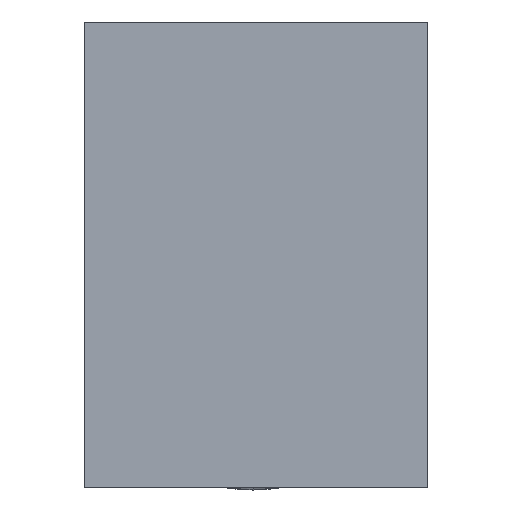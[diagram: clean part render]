
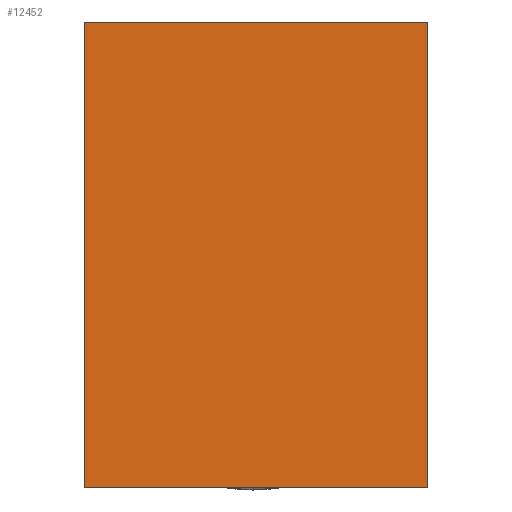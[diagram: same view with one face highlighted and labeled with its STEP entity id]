
A CAD part, left-side view. The second image highlights one B-rep face of the part: STEP entity #12452.
In plain terms, the highlighted planar face has unit normal (-1, 0, 0).
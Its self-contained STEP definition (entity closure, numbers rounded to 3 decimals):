
#120 = CARTESIAN_POINT ( 'NONE',  ( 0., -14.75, 20. ) ) ;
#787 = EDGE_CURVE ( 'NONE', #14364, #26607, #5948, .T. ) ;
#2163 = DIRECTION ( 'NONE',  ( 0., -1., 0. ) ) ;
#2839 = CARTESIAN_POINT ( 'NONE',  ( 0., -14.75, 20. ) ) ;
#4887 = DIRECTION ( 'NONE',  ( 0., 0., 1. ) ) ;
#5851 = LINE ( 'NONE', #120, #19449 ) ;
#5894 = AXIS2_PLACEMENT_3D ( 'NONE', #11335, #29100, #13905 ) ;
#5948 = LINE ( 'NONE', #2839, #33027 ) ;
#7617 = VERTEX_POINT ( 'NONE', #30580 ) ;
#7788 = VECTOR ( 'NONE', #4887, 1000. ) ;
#8545 = ORIENTED_EDGE ( 'NONE', *, *, #10914, .F. ) ;
#8576 = LINE ( 'NONE', #25273, #7788 ) ;
#9965 = CARTESIAN_POINT ( 'NONE',  ( 0., -14.75, 20. ) ) ;
#10914 = EDGE_CURVE ( 'NONE', #26607, #20644, #5851, .T. ) ;
#10984 = CARTESIAN_POINT ( 'NONE',  ( 0., 14.75, 20. ) ) ;
#11335 = CARTESIAN_POINT ( 'NONE',  ( 0., 14.75, -20. ) ) ;
#12096 = VECTOR ( 'NONE', #26892, 1000. ) ;
#12452 = ADVANCED_FACE ( 'NONE', ( #28027 ), #13792, .T. ) ;
#13792 = PLANE ( 'NONE',  #5894 ) ;
#13905 = DIRECTION ( 'NONE',  ( 0., 0., 1. ) ) ;
#14364 = VERTEX_POINT ( 'NONE', #10984 ) ;
#17190 = ORIENTED_EDGE ( 'NONE', *, *, #787, .F. ) ;
#17994 = DIRECTION ( 'NONE',  ( 0., 0., -1. ) ) ;
#19449 = VECTOR ( 'NONE', #17994, 1000. ) ;
#20644 = VERTEX_POINT ( 'NONE', #22395 ) ;
#22395 = CARTESIAN_POINT ( 'NONE',  ( 0., -14.75, -20. ) ) ;
#22610 = EDGE_CURVE ( 'NONE', #20644, #7617, #32337, .T. ) ;
#24352 = CARTESIAN_POINT ( 'NONE',  ( 0., -14.75, -20. ) ) ;
#25273 = CARTESIAN_POINT ( 'NONE',  ( 0., 14.75, 20. ) ) ;
#26607 = VERTEX_POINT ( 'NONE', #9965 ) ;
#26892 = DIRECTION ( 'NONE',  ( 0., 1., 0. ) ) ;
#28027 = FACE_OUTER_BOUND ( 'NONE', #31930, .T. ) ;
#28564 = ORIENTED_EDGE ( 'NONE', *, *, #22610, .F. ) ;
#29100 = DIRECTION ( 'NONE',  ( -1., 0., 0. ) ) ;
#30160 = ORIENTED_EDGE ( 'NONE', *, *, #32060, .F. ) ;
#30580 = CARTESIAN_POINT ( 'NONE',  ( 0., 14.75, -20. ) ) ;
#31930 = EDGE_LOOP ( 'NONE', ( #28564, #8545, #17190, #30160 ) ) ;
#32060 = EDGE_CURVE ( 'NONE', #7617, #14364, #8576, .T. ) ;
#32337 = LINE ( 'NONE', #24352, #12096 ) ;
#33027 = VECTOR ( 'NONE', #2163, 1000. ) ;
